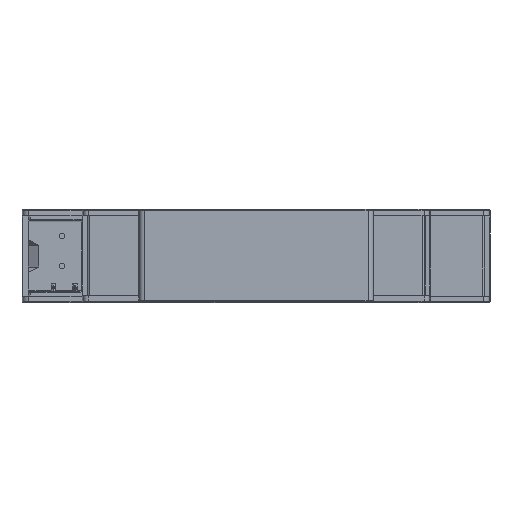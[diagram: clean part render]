
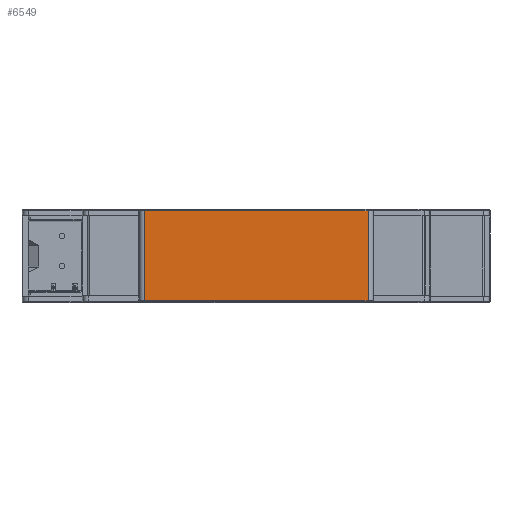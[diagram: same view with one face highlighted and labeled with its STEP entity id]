
A CAD part, top view. The second image highlights one B-rep face of the part: STEP entity #6549.
In plain terms, the highlighted planar face has unit normal (0, 0, 1).
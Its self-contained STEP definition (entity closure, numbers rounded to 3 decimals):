
#371=ORIENTED_EDGE('',*,*,#2264,.F.);
#372=ORIENTED_EDGE('',*,*,#2265,.F.);
#373=ORIENTED_EDGE('',*,*,#2266,.F.);
#374=ORIENTED_EDGE('',*,*,#2267,.F.);
#2264=EDGE_CURVE('',#3305,#3306,#4007,.T.);
#2265=EDGE_CURVE('',#3307,#3305,#4008,.T.);
#2266=EDGE_CURVE('',#3308,#3307,#4009,.T.);
#2267=EDGE_CURVE('',#3306,#3308,#4010,.T.);
#3305=VERTEX_POINT('',#9320);
#3306=VERTEX_POINT('',#9321);
#3307=VERTEX_POINT('',#9323);
#3308=VERTEX_POINT('',#9325);
#4007=LINE('',#9319,#4822);
#4008=LINE('',#9322,#4823);
#4009=LINE('',#9324,#4824);
#4010=LINE('',#9326,#4825);
#4822=VECTOR('',#7448,1000.);
#4823=VECTOR('',#7449,1000.);
#4824=VECTOR('',#7450,1000.);
#4825=VECTOR('',#7451,1000.);
#5637=EDGE_LOOP('',(#371,#372,#373,#374));
#5988=FACE_BOUND('',#5637,.T.);
#6339=PLANE('',#6916);
#6549=ADVANCED_FACE('',(#5988),#6339,.T.);
#6916=AXIS2_PLACEMENT_3D('',#9318,#7446,#7447);
#7446=DIRECTION('',(0.,0.,1.));
#7447=DIRECTION('',(1.,0.,0.));
#7448=DIRECTION('',(0.,-1.,0.));
#7449=DIRECTION('',(1.,0.,0.));
#7450=DIRECTION('',(0.,1.,0.));
#7451=DIRECTION('',(-1.,0.,0.));
#9318=CARTESIAN_POINT('',(60.404,7.038,29.325));
#9319=CARTESIAN_POINT('',(60.404,-1.621,29.325));
#9320=CARTESIAN_POINT('',(60.404,7.038,29.325));
#9321=CARTESIAN_POINT('',(60.404,-10.279,29.325));
#9322=CARTESIAN_POINT('',(38.925,7.038,29.325));
#9323=CARTESIAN_POINT('',(17.446,7.038,29.325));
#9324=CARTESIAN_POINT('',(17.446,-1.621,29.325));
#9325=CARTESIAN_POINT('',(17.446,-10.279,29.325));
#9326=CARTESIAN_POINT('',(38.925,-10.279,29.325));
